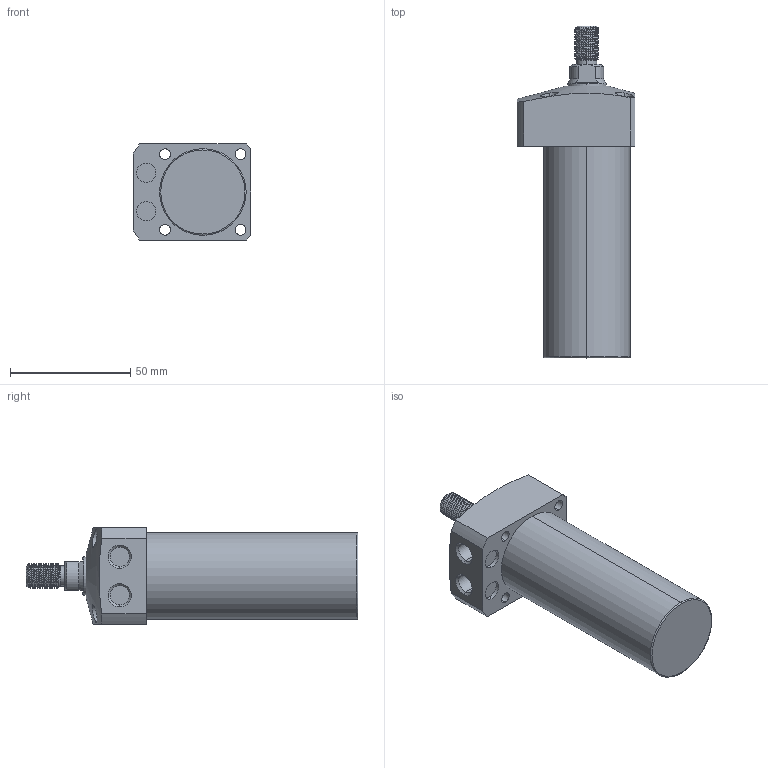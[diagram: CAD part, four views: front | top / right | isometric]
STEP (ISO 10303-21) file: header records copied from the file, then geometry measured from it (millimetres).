
FILE_DESCRIPTION (( 'STEP AP203' ), '1' );
FILE_NAME ('CLL-036CT-065.STEP', '2020-01-08T08:47:15', ( '' ), ( '' ), 'SwSTEP 2.0', 'SolidWorks 2015', '' );
FILE_SCHEMA (( 'CONFIG_CONTROL_DESIGN' ));
Length unit declared in the file: millimetre
Products named in the file (1): CLL-036CT-065
Bounding box: 49 x 138 x 40 mm (x, y, z)
Volume: 132467.2 mm3; surface area: 20623.7 mm2
Topology: 1 solids, 1 shells, 101 faces, 252 edges, 164 vertices
Faces by surface type: cylinder 60, plane 23, cone 14, torus 2, bspline 2
Entity records: 4971 total; most frequent: CARTESIAN_POINT 2617, ORIENTED_EDGE 504, DIRECTION 447, EDGE_CURVE 252, AXIS2_PLACEMENT_3D 180, VERTEX_POINT 164, EDGE_LOOP 120, FACE_OUTER_BOUND 101
